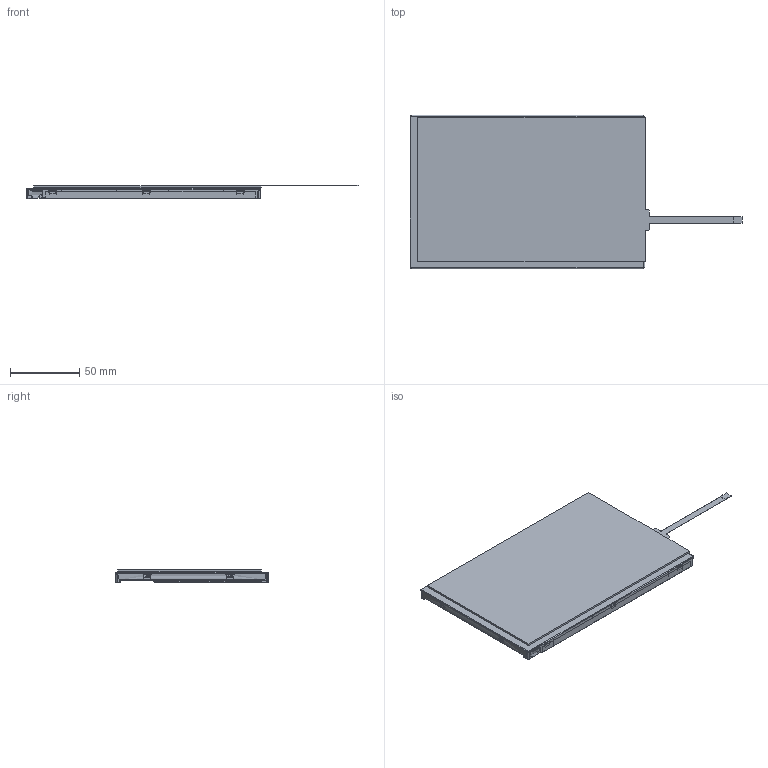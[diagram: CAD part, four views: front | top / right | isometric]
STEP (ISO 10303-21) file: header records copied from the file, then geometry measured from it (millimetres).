
FILE_DESCRIPTION (( 'STEP AP214' ), '1' );
FILE_NAME ('IDK-1107WR-40WVA1E.STEP', '2013-02-18T03:30:36', ( 'user' ), ( '' ), 'SwSTEP 2.0', 'SolidWorks 2012', '' );
FILE_SCHEMA (( 'AUTOMOTIVE_DESIGN' ));
Length unit declared in the file: millimetre
Products named in the file (3): IDK-1107WR-40WVA1E; G070VW01 V0_AUO; T010-1301-T320_TTI
Assembly tree (2 placements, depth 2):
  IDK-1107WR-40WVA1E
    G070VW01 V0_AUO
    T010-1301-T320_TTI
Bounding box: 240.55 x 111.1 x 9.63 mm (x, y, z)
Topology: 1 solids, 52 shells, 668 faces, 2312 edges, 1615 vertices
Faces by surface type: plane 385, cylinder 216, bspline 63, torus 4
Full cylindrical faces by diameter (mm): 0.6 x5, 0.8 x10, 1.8 x1, 4 x3
Entity records: 34743 total; most frequent: CARTESIAN_POINT 16487, ORIENTED_EDGE 3618, DIRECTION 3190, EDGE_CURVE 2268, VERTEX_POINT 1613, LINE 1504, VECTOR 1504, AXIS2_PLACEMENT_3D 843
